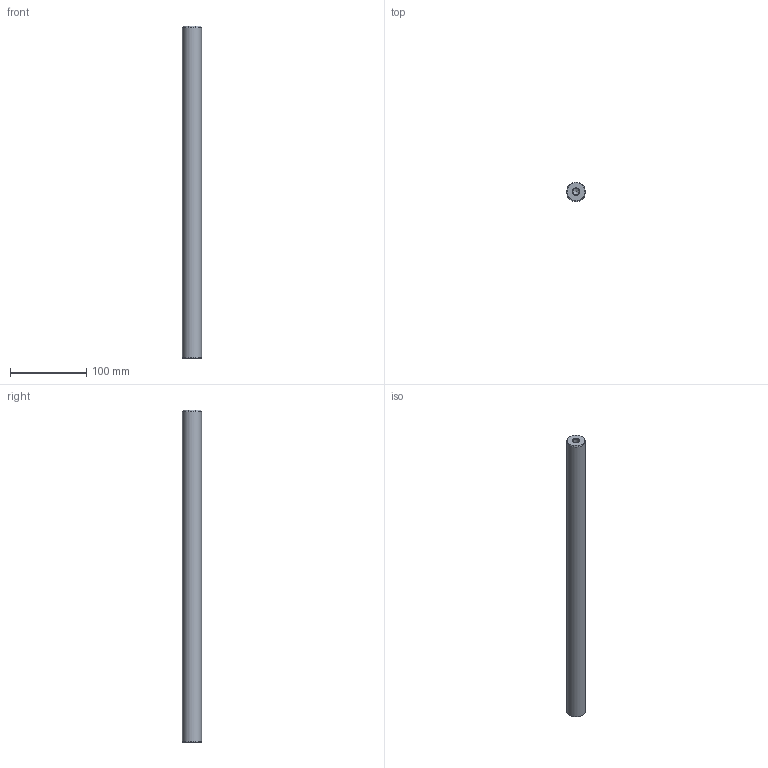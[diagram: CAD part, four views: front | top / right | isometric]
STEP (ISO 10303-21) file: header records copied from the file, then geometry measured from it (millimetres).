
FILE_DESCRIPTION( ( 'STEP AP214' ), '1' );
FILE_NAME( 'U:/Etudes/Top Solid/BIBLIO_Fournisseur/Colonnes UG/Ø25x436.step', '2004-12-22T12:44:22', ( ' ' ), ( ' ' ), 'XStep 1.0', ' ', ' ' );
FILE_SCHEMA( ( 'automotive_design' ) );
Length unit declared in the file: metre
Products named in the file (1): 1
Bounding box: 25 x 25 x 436 mm (x, y, z)
Volume: 210973.6 mm3; surface area: 36517.9 mm2
Topology: 1 solids, 1 shells, 13 faces, 27 edges, 16 vertices
Faces by surface type: cone 6, cylinder 5, plane 2
Full cylindrical faces by diameter (mm): 8.376 x4, 25 x1
Entity records: 382 total; most frequent: DIRECTION 52, CARTESIAN_POINT 40, AXIS2_PLACEMENT_3D 26, EDGE_LOOP 24, ORIENTED_EDGE 24, FACE_OUTER_BOUND 18, VERTEX_POINT 14, STYLED_ITEM 13
